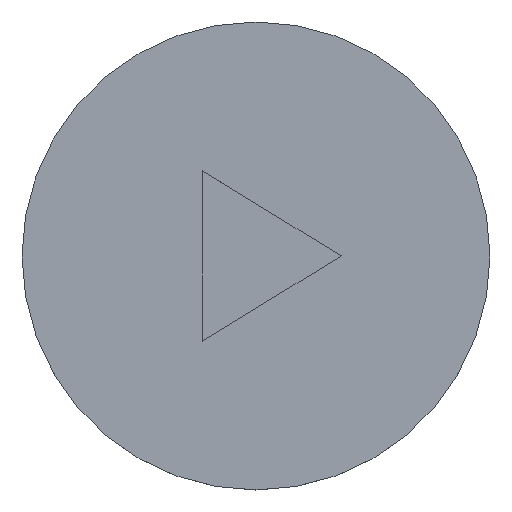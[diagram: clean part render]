
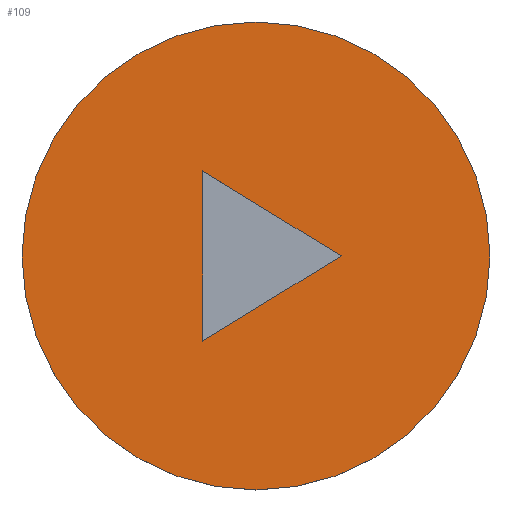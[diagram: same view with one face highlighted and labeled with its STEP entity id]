
A CAD part, top view. The second image highlights one B-rep face of the part: STEP entity #109.
In plain terms, the highlighted planar face has unit normal (0, 0, 1).
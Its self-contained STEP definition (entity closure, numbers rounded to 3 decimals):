
#31 = CYLINDRICAL_SURFACE('',#32,11.);
#32 = AXIS2_PLACEMENT_3D('',#33,#34,#35);
#33 = CARTESIAN_POINT('',(0.,-36.,28.4));
#34 = DIRECTION('',(-0.,-0.,-1.));
#35 = DIRECTION('',(1.,0.,0.));
#56 = VERTEX_POINT('',#57);
#57 = CARTESIAN_POINT('',(11.,-36.,29.4));
#78 = EDGE_CURVE('',#56,#56,#79,.T.);
#79 = SURFACE_CURVE('',#80,(#85,#92),.PCURVE_S1.);
#80 = CIRCLE('',#81,11.);
#81 = AXIS2_PLACEMENT_3D('',#82,#83,#84);
#82 = CARTESIAN_POINT('',(0.,-36.,29.4));
#83 = DIRECTION('',(0.,0.,1.));
#84 = DIRECTION('',(1.,0.,-0.));
#85 = PCURVE('',#31,#86);
#86 = DEFINITIONAL_REPRESENTATION('',(#87),#91);
#87 = LINE('',#88,#89);
#88 = CARTESIAN_POINT('',(6.283,-1.));
#89 = VECTOR('',#90,1.);
#90 = DIRECTION('',(-1.,0.));
#91 = ( GEOMETRIC_REPRESENTATION_CONTEXT(2) 
PARAMETRIC_REPRESENTATION_CONTEXT() REPRESENTATION_CONTEXT('2D SPACE',''
  ) );
#92 = PCURVE('',#93,#98);
#93 = PLANE('',#94);
#94 = AXIS2_PLACEMENT_3D('',#95,#96,#97);
#95 = CARTESIAN_POINT('',(0.,-36.,29.4));
#96 = DIRECTION('',(0.,0.,1.));
#97 = DIRECTION('',(1.,0.,-0.));
#98 = DEFINITIONAL_REPRESENTATION('',(#99),#103);
#99 = CIRCLE('',#100,11.);
#100 = AXIS2_PLACEMENT_2D('',#101,#102);
#101 = CARTESIAN_POINT('',(0.,0.));
#102 = DIRECTION('',(1.,0.));
#103 = ( GEOMETRIC_REPRESENTATION_CONTEXT(2) 
PARAMETRIC_REPRESENTATION_CONTEXT() REPRESENTATION_CONTEXT('2D SPACE',''
  ) );
#109 = ADVANCED_FACE('',(#110,#113),#93,.T.);
#110 = FACE_BOUND('',#111,.T.);
#111 = EDGE_LOOP('',(#112));
#112 = ORIENTED_EDGE('',*,*,#78,.T.);
#113 = FACE_BOUND('',#114,.T.);
#114 = EDGE_LOOP('',(#115,#145,#173));
#115 = ORIENTED_EDGE('',*,*,#116,.T.);
#116 = EDGE_CURVE('',#117,#119,#121,.T.);
#117 = VERTEX_POINT('',#118);
#118 = CARTESIAN_POINT('',(-2.5,-32.,29.4));
#119 = VERTEX_POINT('',#120);
#120 = CARTESIAN_POINT('',(4.,-36.,29.4));
#121 = SURFACE_CURVE('',#122,(#126,#133),.PCURVE_S1.);
#122 = LINE('',#123,#124);
#123 = CARTESIAN_POINT('',(2.549,-35.107,29.4));
#124 = VECTOR('',#125,1.);
#125 = DIRECTION('',(0.852,-0.524,0.));
#126 = PCURVE('',#93,#127);
#127 = DEFINITIONAL_REPRESENTATION('',(#128),#132);
#128 = LINE('',#129,#130);
#129 = CARTESIAN_POINT('',(2.549,0.893));
#130 = VECTOR('',#131,1.);
#131 = DIRECTION('',(0.852,-0.524));
#132 = ( GEOMETRIC_REPRESENTATION_CONTEXT(2) 
PARAMETRIC_REPRESENTATION_CONTEXT() REPRESENTATION_CONTEXT('2D SPACE',''
  ) );
#133 = PCURVE('',#134,#139);
#134 = PLANE('',#135);
#135 = AXIS2_PLACEMENT_3D('',#136,#137,#138);
#136 = CARTESIAN_POINT('',(4.,-36.,29.2));
#137 = DIRECTION('',(-0.524,-0.852,0.));
#138 = DIRECTION('',(-0.852,0.524,0.));
#139 = DEFINITIONAL_REPRESENTATION('',(#140),#144);
#140 = LINE('',#141,#142);
#141 = CARTESIAN_POINT('',(1.703,-0.2));
#142 = VECTOR('',#143,1.);
#143 = DIRECTION('',(-1.,-0.));
#144 = ( GEOMETRIC_REPRESENTATION_CONTEXT(2) 
PARAMETRIC_REPRESENTATION_CONTEXT() REPRESENTATION_CONTEXT('2D SPACE',''
  ) );
#145 = ORIENTED_EDGE('',*,*,#146,.T.);
#146 = EDGE_CURVE('',#119,#147,#149,.T.);
#147 = VERTEX_POINT('',#148);
#148 = CARTESIAN_POINT('',(-2.5,-40.,29.4));
#149 = SURFACE_CURVE('',#150,(#154,#161),.PCURVE_S1.);
#150 = LINE('',#151,#152);
#151 = CARTESIAN_POINT('',(-0.701,-38.893,29.4));
#152 = VECTOR('',#153,1.);
#153 = DIRECTION('',(-0.852,-0.524,0.));
#154 = PCURVE('',#93,#155);
#155 = DEFINITIONAL_REPRESENTATION('',(#156),#160);
#156 = LINE('',#157,#158);
#157 = CARTESIAN_POINT('',(-0.701,-2.893));
#158 = VECTOR('',#159,1.);
#159 = DIRECTION('',(-0.852,-0.524));
#160 = ( GEOMETRIC_REPRESENTATION_CONTEXT(2) 
PARAMETRIC_REPRESENTATION_CONTEXT() REPRESENTATION_CONTEXT('2D SPACE',''
  ) );
#161 = PCURVE('',#162,#167);
#162 = PLANE('',#163);
#163 = AXIS2_PLACEMENT_3D('',#164,#165,#166);
#164 = CARTESIAN_POINT('',(-2.5,-40.,29.2));
#165 = DIRECTION('',(-0.524,0.852,0.));
#166 = DIRECTION('',(0.852,0.524,0.));
#167 = DEFINITIONAL_REPRESENTATION('',(#168),#172);
#168 = LINE('',#169,#170);
#169 = CARTESIAN_POINT('',(2.113,-0.2));
#170 = VECTOR('',#171,1.);
#171 = DIRECTION('',(-1.,-0.));
#172 = ( GEOMETRIC_REPRESENTATION_CONTEXT(2) 
PARAMETRIC_REPRESENTATION_CONTEXT() REPRESENTATION_CONTEXT('2D SPACE',''
  ) );
#173 = ORIENTED_EDGE('',*,*,#174,.T.);
#174 = EDGE_CURVE('',#147,#117,#175,.T.);
#175 = SURFACE_CURVE('',#176,(#180,#187),.PCURVE_S1.);
#176 = LINE('',#177,#178);
#177 = CARTESIAN_POINT('',(-2.5,-34.,29.4));
#178 = VECTOR('',#179,1.);
#179 = DIRECTION('',(-0.,1.,0.));
#180 = PCURVE('',#93,#181);
#181 = DEFINITIONAL_REPRESENTATION('',(#182),#186);
#182 = LINE('',#183,#184);
#183 = CARTESIAN_POINT('',(-2.5,2.));
#184 = VECTOR('',#185,1.);
#185 = DIRECTION('',(0.,1.));
#186 = ( GEOMETRIC_REPRESENTATION_CONTEXT(2) 
PARAMETRIC_REPRESENTATION_CONTEXT() REPRESENTATION_CONTEXT('2D SPACE',''
  ) );
#187 = PCURVE('',#188,#193);
#188 = PLANE('',#189);
#189 = AXIS2_PLACEMENT_3D('',#190,#191,#192);
#190 = CARTESIAN_POINT('',(-2.5,-32.,29.2));
#191 = DIRECTION('',(1.,0.,-0.));
#192 = DIRECTION('',(0.,-1.,0.));
#193 = DEFINITIONAL_REPRESENTATION('',(#194),#198);
#194 = LINE('',#195,#196);
#195 = CARTESIAN_POINT('',(2.,-0.2));
#196 = VECTOR('',#197,1.);
#197 = DIRECTION('',(-1.,-0.));
#198 = ( GEOMETRIC_REPRESENTATION_CONTEXT(2) 
PARAMETRIC_REPRESENTATION_CONTEXT() REPRESENTATION_CONTEXT('2D SPACE',''
  ) );
